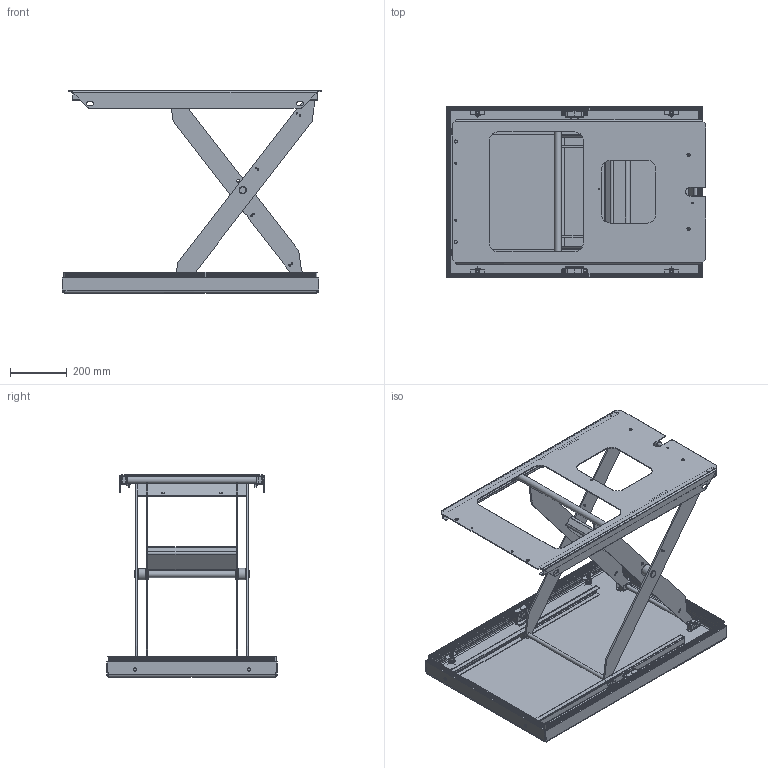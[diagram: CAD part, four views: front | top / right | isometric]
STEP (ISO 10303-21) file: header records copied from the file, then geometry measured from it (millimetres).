
FILE_DESCRIPTION(/* description */ ('Ram'),/* implementation_level */ '2;1');
FILE_NAME(/* name */ 'C:\Autodesk_VaultWork\Ritningar\Exporterade modeller\TCR 500 - (34919)\34919_Topp.stp',/* time_stamp */ '2015-07-03T12:12:54+02:00',/* author */ ('joaed'),/* organization */ (''),/* preprocessor_version */ 'ST-DEVELOPER v15.6',/* originating_system */ 'Autodesk Inventor 2015',/* authorisation */ '');
FILE_SCHEMA (('AUTOMOTIVE_DESIGN { 1 0 10303 214 3 1 1 }'));
Products named in the file (56): 34917; 44717; 44071; 83208; 34916; 515222; 44471; 44702; 80130; 43372; 34918; 42207; 83209; ISO 7050 - ST 4,2 x 25 - C - H; 42207_1; 44718; 44705; 36470; 43821; 44714; 34912; 44704; 44064; 44065; 43822; 43807; 34913; 44068; 82269; 34914; 43056-570; 43056-870; 42330; 43481; ISO 4032 - M8ISO; 33991; 44283; 44280; 44279; 44282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
Assembly tree (105 placements, depth 5):
  34919
    34916
      34917
      44717  x2
      44071  x2
      83208  x2
    34918
      515222
      44471  x2
      44702  x2
      80130  x4
      43372  x2
    42207  x4
    83209  x2
    ISO 7050 - ST 4,2 x 25 - C - H  x8
    44718  x4
      42207_1
    34914
      34912
        44705  x2
        36470
        43821
        44714
      34913
        44704  x2
        44064
        44065  x2
        43822
        43807
      44068
      82269  x4
    35731
      43056-570  x2
      43056-870  x2
      42330  x4
      43481  x4
      ISO 4032 - M8ISO  x4
      33990  x2
        33991
        44283
        44280
        44279
        44282
        ISO 7089 - 5 - 140 HV(1)
        84253
        44281
          44281-1
          ISO 2009 - M4 x 12ISO 7,9
        ISO 4032 - M4ISO
        83928
        44277
        44278
        33992
        ISO 7380 - M4 x 10
      44510  x4
    33508  x2
Bounding box: 910.81 x 600 x 710 mm (x, y, z)
Volume: 7377407.1 mm3; surface area: 4108911.4 mm2
Topology: 117 solids, 117 shells, 4751 faces, 12669 edges, 8356 vertices
Faces by surface type: plane 2641, cylinder 1280, bspline 518, cone 228, torus 84
Full cylindrical faces by diameter (mm): 0.474 x2, 1 x4, 3 x4, 3.141 x4, 3.2 x4, 3.242 x4, 3.5 x8, 4 x14, 4.2 x8, 4.3 x4, 4.9 x2, 5 x4, 5.2 x6, 5.3 x4, 5.5 x4, 6 x26, 6.5 x2, 6.647 x4, 7.6 x4, 8 x10, 8.376 x2, 8.4 x8, 8.5 x4, 10 x10, 10.5 x8, 11 x6, 11.63 x4, 12 x8, 14 x15, 14.2 x4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
Entity records: 75327 total; most frequent: CARTESIAN_POINT 21026, ORIENTED_EDGE 11238, DIRECTION 10381, EDGE_CURVE 5618, VERTEX_POINT 3794, LINE 3661, VECTOR 3661, AXIS2_PLACEMENT_3D 3360
